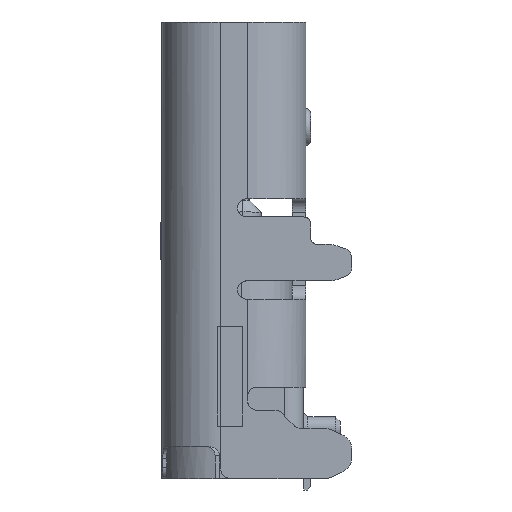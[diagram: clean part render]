
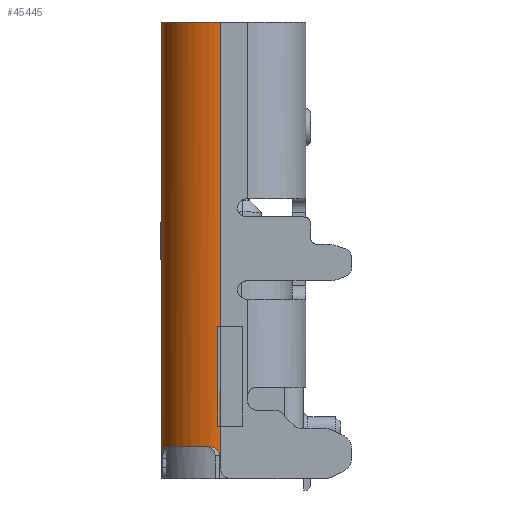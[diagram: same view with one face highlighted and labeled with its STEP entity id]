
A CAD part, left-side view. The second image highlights one B-rep face of the part: STEP entity #45445.
In plain terms, the highlighted cylindrical face has radius 1.28 mm (diameter 2.56 mm), a partial arc.
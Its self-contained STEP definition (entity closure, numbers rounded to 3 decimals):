
#394 = CARTESIAN_POINT ( 'NONE',  ( 0.025, 3.13, -8.7 ) ) ;
#1337 = EDGE_LOOP ( 'NONE', ( #14843, #25915, #71472, #61745, #10558, #58799, #59888, #30166 ) ) ;
#3979 = CARTESIAN_POINT ( 'NONE',  ( 1.28, 4.16, -9.4 ) ) ;
#4306 = VERTEX_POINT ( 'NONE', #37556 ) ;
#4998 = CARTESIAN_POINT ( 'NONE',  ( 1.28, 4.16, 0.6 ) ) ;
#5194 = CARTESIAN_POINT ( 'NONE',  ( 1.03, 4.135, -9.15 ) ) ;
#5787 = CARTESIAN_POINT ( 'NONE',  ( -0.001, 2.905, -8.821 ) ) ;
#7564 = EDGE_CURVE ( 'NONE', #18501, #45913, #19800, .T. ) ;
#7704 = B_SPLINE_CURVE_WITH_KNOTS ( 'NONE', 3,
 ( #29798, #18371, #68563, #56320, #80844, #394 ),
 .UNSPECIFIED., .F., .F.,
 ( 4, 2, 4 ),
 ( 0., 0.5, 1. ),
 .UNSPECIFIED. ) ;
#8897 = CARTESIAN_POINT ( 'NONE',  ( 1.28, 4.16, -2.733 ) ) ;
#9230 = EDGE_CURVE ( 'NONE', #9828, #4306, #13588, .T. ) ;
#9828 = VERTEX_POINT ( 'NONE', #24534 ) ;
#10558 = ORIENTED_EDGE ( 'NONE', *, *, #48325, .T. ) ;
#10719 = CARTESIAN_POINT ( 'NONE',  ( 0.162, 3.526, 0.6 ) ) ;
#11113 = CARTESIAN_POINT ( 'NONE',  ( 0.033, 3.213, 0.6 ) ) ;
#13588 = B_SPLINE_CURVE_WITH_KNOTS ( 'NONE', 3,
 ( #55326, #80234, #24316, #74112, #34900, #55237, #29530, #22614, #60141, #66262 ),
 .UNSPECIFIED., .F., .F.,
 ( 4, 2, 2, 2, 4 ),
 ( 0., 0.25, 0.375, 0.5, 1. ),
 .UNSPECIFIED. ) ;
#14843 = ORIENTED_EDGE ( 'NONE', *, *, #22072, .T. ) ;
#14987 = CARTESIAN_POINT ( 'NONE',  ( 1.166, 4.155, -9.375 ) ) ;
#15079 = AXIS2_PLACEMENT_3D ( 'NONE', #16242, #47655, #53377 ) ;
#16242 = CARTESIAN_POINT ( 'NONE',  ( 1.28, 2.88, -9.6 ) ) ;
#16824 = CARTESIAN_POINT ( 'NONE',  ( 0.495, 3.905, 0.6 ) ) ;
#17228 = CARTESIAN_POINT ( 'NONE',  ( 0.634, 3.998, 0.6 ) ) ;
#18371 = CARTESIAN_POINT ( 'NONE',  ( 0.589, 3.977, -8.7 ) ) ;
#18501 = VERTEX_POINT ( 'NONE', #62357 ) ;
#18638 = CARTESIAN_POINT ( 'NONE',  ( 1.03, 4.135, -9.017 ) ) ;
#19800 = B_SPLINE_CURVE_WITH_KNOTS ( 'NONE', 3,
 ( #38699, #26082, #8897, #46417 ),
 .UNSPECIFIED., .F., .F.,
 ( 4, 4 ),
 ( 0., 1. ),
 .UNSPECIFIED. ) ;
#21109 = CARTESIAN_POINT ( 'NONE',  ( 1.227, 4.159, -9.397 ) ) ;
#22072 = EDGE_CURVE ( 'NONE', #26474, #54209, #28403, .T. ) ;
#22614 = CARTESIAN_POINT ( 'NONE',  ( 0.908, 4.106, -8.724 ) ) ;
#22748 = CARTESIAN_POINT ( 'NONE',  ( 1.03, 4.135, -9.174 ) ) ;
#22782 = CYLINDRICAL_SURFACE ( 'NONE', #15079, 1.28 ) ;
#23363 = CARTESIAN_POINT ( 'NONE',  ( 0.947, 4.127, 0.6 ) ) ;
#23854 = CARTESIAN_POINT ( 'NONE',  ( 0., 2.88, -8.95 ) ) ;
#23961 = CARTESIAN_POINT ( 'NONE',  ( 1.03, 4.135, -8.95 ) ) ;
#24316 = CARTESIAN_POINT ( 'NONE',  ( 1.023, 4.134, -8.884 ) ) ;
#24534 = CARTESIAN_POINT ( 'NONE',  ( 1.03, 4.135, -8.95 ) ) ;
#25158 = B_SPLINE_CURVE_WITH_KNOTS ( 'NONE', 3,
 ( #60279, #22748, #64764, #65997, #52540, #70892, #14987, #21109, #34165, #3979 ),
 .UNSPECIFIED., .F., .F.,
 ( 4, 2, 2, 2, 4 ),
 ( 0., 0.25, 0.5, 0.75, 1. ),
 .UNSPECIFIED. ) ;
#25915 = ORIENTED_EDGE ( 'NONE', *, *, #42445, .F. ) ;
#26082 = CARTESIAN_POINT ( 'NONE',  ( 1.28, 4.16, -6.067 ) ) ;
#26474 = VERTEX_POINT ( 'NONE', #23854 ) ;
#28403 = B_SPLINE_CURVE_WITH_KNOTS ( 'NONE', 3,
 ( #67427, #80102, #74787, #29886 ),
 .UNSPECIFIED., .F., .F.,
 ( 4, 4 ),
 ( 0., 1. ),
 .UNSPECIFIED. ) ;
#29031 = CARTESIAN_POINT ( 'NONE',  ( 0., 2.88, 0.6 ) ) ;
#29530 = CARTESIAN_POINT ( 'NONE',  ( 0.969, 4.122, -8.786 ) ) ;
#29798 = CARTESIAN_POINT ( 'NONE',  ( 0.78, 4.058, -8.7 ) ) ;
#29869 = CARTESIAN_POINT ( 'NONE',  ( 0.255, 3.665, 0.6 ) ) ;
#29886 = CARTESIAN_POINT ( 'NONE',  ( 0., 2.88, 0.6 ) ) ;
#30039 = EDGE_CURVE ( 'NONE', #4306, #78991, #7704, .T. ) ;
#30166 = ORIENTED_EDGE ( 'NONE', *, *, #31250, .T. ) ;
#31250 = EDGE_CURVE ( 'NONE', #78991, #26474, #69678, .T. ) ;
#34165 = CARTESIAN_POINT ( 'NONE',  ( 1.256, 4.16, -9.4 ) ) ;
#34900 = CARTESIAN_POINT ( 'NONE',  ( 0.996, 4.128, -8.824 ) ) ;
#35572 = CARTESIAN_POINT ( 'NONE',  ( 0.005, 3.003, -8.724 ) ) ;
#37556 = CARTESIAN_POINT ( 'NONE',  ( 0.78, 4.058, -8.7 ) ) ;
#38335 = VERTEX_POINT ( 'NONE', #54915 ) ;
#38699 = CARTESIAN_POINT ( 'NONE',  ( 1.28, 4.16, -9.4 ) ) ;
#39307 = CARTESIAN_POINT ( 'NONE',  ( 1.28, 4.16, 0.6 ) ) ;
#41289 = CARTESIAN_POINT ( 'NONE',  ( 0., 3.05, 0.6 ) ) ;
#41535 = EDGE_CURVE ( 'NONE', #38335, #18501, #25158, .T. ) ;
#42075 = CARTESIAN_POINT ( 'NONE',  ( 0.025, 3.13, -8.7 ) ) ;
#42327 = FACE_OUTER_BOUND ( 'NONE', #1337, .T. ) ;
#42445 = EDGE_CURVE ( 'NONE', #45913, #54209, #66745, .T. ) ;
#45445 = ADVANCED_FACE ( 'NONE', ( #42327 ), #22782, .T. ) ;
#45913 = VERTEX_POINT ( 'NONE', #39307 ) ;
#46417 = CARTESIAN_POINT ( 'NONE',  ( 1.28, 4.16, 0.6 ) ) ;
#47655 = DIRECTION ( 'NONE',  ( 0., 0., 1. ) ) ;
#48200 = CARTESIAN_POINT ( 'NONE',  ( 0., 2.88, -8.88 ) ) ;
#48325 = EDGE_CURVE ( 'NONE', #38335, #9828, #56961, .T. ) ;
#52540 = CARTESIAN_POINT ( 'NONE',  ( 1.074, 4.144, -9.297 ) ) ;
#53377 = DIRECTION ( 'NONE',  ( 1., 0., 0. ) ) ;
#54209 = VERTEX_POINT ( 'NONE', #29031 ) ;
#54364 = CARTESIAN_POINT ( 'NONE',  ( 0., 2.88, 0.6 ) ) ;
#54915 = CARTESIAN_POINT ( 'NONE',  ( 1.03, 4.135, -9.15 ) ) ;
#55237 = CARTESIAN_POINT ( 'NONE',  ( 0.979, 4.124, -8.797 ) ) ;
#55326 = CARTESIAN_POINT ( 'NONE',  ( 1.03, 4.135, -8.95 ) ) ;
#55549 = CARTESIAN_POINT ( 'NONE',  ( 0., 2.88, -8.95 ) ) ;
#56320 = CARTESIAN_POINT ( 'NONE',  ( 0.156, 3.527, -8.7 ) ) ;
#56961 = B_SPLINE_CURVE_WITH_KNOTS ( 'NONE', 3,
 ( #5194, #79874, #18638, #23961 ),
 .UNSPECIFIED., .F., .F.,
 ( 4, 4 ),
 ( 0., 1. ),
 .UNSPECIFIED. ) ;
#58799 = ORIENTED_EDGE ( 'NONE', *, *, #9230, .T. ) ;
#59888 = ORIENTED_EDGE ( 'NONE', *, *, #30039, .T. ) ;
#60141 = CARTESIAN_POINT ( 'NONE',  ( 0.848, 4.087, -8.7 ) ) ;
#60279 = CARTESIAN_POINT ( 'NONE',  ( 1.03, 4.135, -9.15 ) ) ;
#61745 = ORIENTED_EDGE ( 'NONE', *, *, #41535, .F. ) ;
#62357 = CARTESIAN_POINT ( 'NONE',  ( 1.28, 4.16, -9.4 ) ) ;
#64764 = CARTESIAN_POINT ( 'NONE',  ( 1.033, 4.136, -9.202 ) ) ;
#65997 = CARTESIAN_POINT ( 'NONE',  ( 1.055, 4.14, -9.264 ) ) ;
#66262 = CARTESIAN_POINT ( 'NONE',  ( 0.78, 4.058, -8.7 ) ) ;
#66745 = B_SPLINE_CURVE_WITH_KNOTS ( 'NONE', 3,
 ( #4998, #73144, #23363, #17228, #16824, #29869, #10719, #11113, #41289, #54364 ),
 .UNSPECIFIED., .F., .F.,
 ( 4, 2, 2, 2, 4 ),
 ( 0., 0.25, 0.5, 0.75, 1. ),
 .UNSPECIFIED. ) ;
#66982 = CARTESIAN_POINT ( 'NONE',  ( 0.011, 3.062, -8.7 ) ) ;
#67427 = CARTESIAN_POINT ( 'NONE',  ( 0., 2.88, -8.95 ) ) ;
#67608 = CARTESIAN_POINT ( 'NONE',  ( 0.025, 3.13, -8.7 ) ) ;
#68563 = CARTESIAN_POINT ( 'NONE',  ( 0.418, 3.849, -8.7 ) ) ;
#69678 = B_SPLINE_CURVE_WITH_KNOTS ( 'NONE', 3,
 ( #42075, #66982, #35572, #5787, #48200, #55549 ),
 .UNSPECIFIED., .F., .F.,
 ( 4, 2, 4 ),
 ( 0., 0.5, 1. ),
 .UNSPECIFIED. ) ;
#70892 = CARTESIAN_POINT ( 'NONE',  ( 1.132, 4.152, -9.356 ) ) ;
#71472 = ORIENTED_EDGE ( 'NONE', *, *, #7564, .F. ) ;
#73144 = CARTESIAN_POINT ( 'NONE',  ( 1.11, 4.16, 0.6 ) ) ;
#74112 = CARTESIAN_POINT ( 'NONE',  ( 1.004, 4.13, -8.838 ) ) ;
#74787 = CARTESIAN_POINT ( 'NONE',  ( 0., 2.88, -2.583 ) ) ;
#78991 = VERTEX_POINT ( 'NONE', #67608 ) ;
#79874 = CARTESIAN_POINT ( 'NONE',  ( 1.03, 4.135, -9.083 ) ) ;
#80102 = CARTESIAN_POINT ( 'NONE',  ( 0., 2.88, -5.767 ) ) ;
#80234 = CARTESIAN_POINT ( 'NONE',  ( 1.03, 4.135, -8.916 ) ) ;
#80844 = CARTESIAN_POINT ( 'NONE',  ( 0.065, 3.334, -8.7 ) ) ;
